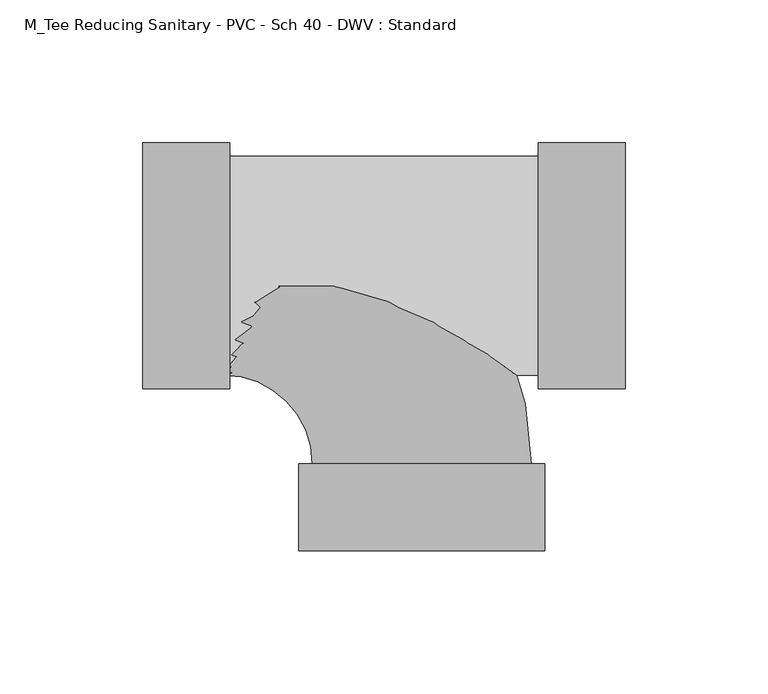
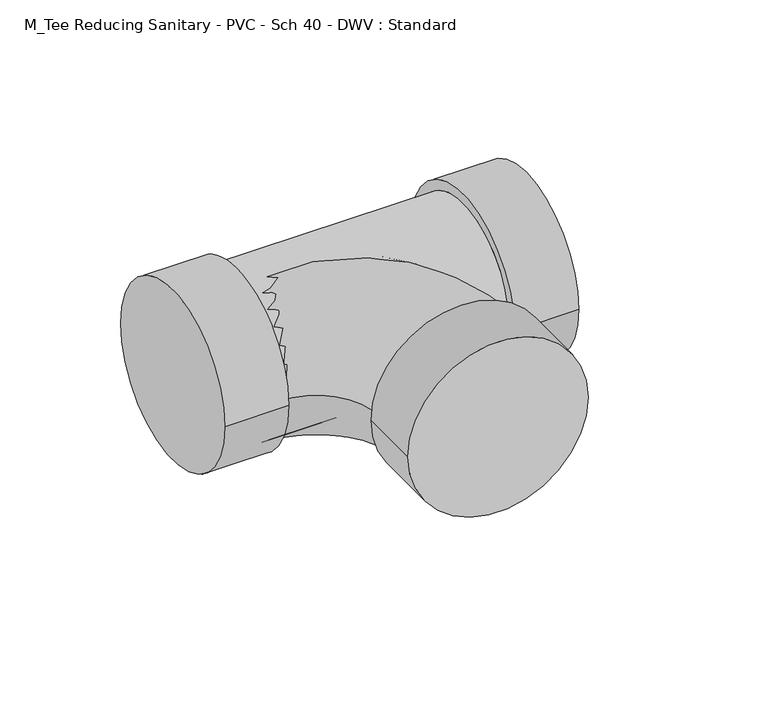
"""IFC4 building model written with IfcOpenShell, lengths in millimetres: pipe fitting geometry, M_Tee Reducing Sanitary - PVC - Sch 40 - DWV : Standard."""

from ifc_helpers import new_model, si_unit, point, frame, origin, place, context, project, spatial, circle_curve, ellipse_curve, trimmed, source, transform, mapped, element, save
from ifc_brep_helpers import plane_surface, cylinder_surface, revolved_surface, advanced_brep


def m_tee_reducing_sanitary_pvc_sch_40_dwv_standard_9cd1363b(model_context):
    return source(origin(), model_context, "Body", "AdvancedBrep", [
        advanced_brep(
        [(40.779225, -43.0871094, 0.0), (40.779225, 43.0871094, 0.0), (40.779225, -38.3640625, 0.0), (40.779225, 38.3640625, 0.0), (71.3495375, -43.0871094, 0.0), (71.3495375, 43.0871094, 0.0), (-67.2428062, 38.3640625, 0.0), (-67.2428062, -38.3640625, 0.0), (-97.8131188, -43.0871094, 0.0), (-97.8131187, 43.0871094, 0.0), (-67.2428063, -43.0871094, 0.0), (-67.2428062, 43.0871094, 0.0)],
        [
            (0, 1, circle_curve(frame((40.779225, 0.0, 0.0), z_axis=(-1.0, 0.0, 0.0), x_axis=(0.0, 1.0, 0.0)), 43.0871094)),
            (1, 0, circle_curve(frame((40.779225, 0.0, 0.0), z_axis=(-1.0, 0.0, 0.0), x_axis=(0.0, 1.0, 0.0)), 43.0871094)),
            (2, 3, circle_curve(frame((40.779225, 0.0, 0.0), z_axis=(1.0, 0.0, 0.0), x_axis=(0.0, 0.0, -1.0)), 38.3640625)),
            (3, 2, circle_curve(frame((40.779225, 0.0, 0.0), z_axis=(1.0, 0.0, 0.0), x_axis=(0.0, 0.0, 1.0)), 38.3640625)),
            (4, 5, circle_curve(frame((71.3495375, 0.0, 0.0), z_axis=(1.0, 0.0, 0.0), x_axis=(0.0, 1.0, 0.0)), 43.0871094)),
            (5, 4, circle_curve(frame((71.3495375, 0.0, 0.0), z_axis=(1.0, 0.0, 0.0), x_axis=(0.0, 1.0, 0.0)), 43.0871094)),
            (0, 4),
            (5, 1),
            (6, 3),
            (2, 7),
            (7, 6, circle_curve(frame((-67.2428063, 0.0, 0.0), z_axis=(1.0, 0.0, 0.0), x_axis=(0.0, 0.0, -1.0)), 38.3640625)),
            (6, 7, circle_curve(frame((-67.2428062, 0.0, 0.0), z_axis=(1.0, 0.0, 0.0), x_axis=(0.0, 0.0, 1.0)), 38.3640625)),
            (8, 9, circle_curve(frame((-97.8131187, 0.0, 0.0), z_axis=(-1.0, 0.0, 0.0), x_axis=(0.0, 1.0, 0.0)), 43.0871094)),
            (9, 8, circle_curve(frame((-97.8131187, 0.0, 0.0), z_axis=(-1.0, 0.0, 0.0), x_axis=(0.0, 1.0, 0.0)), 43.0871094)),
            (10, 11, circle_curve(frame((-67.2428062, 0.0, 0.0), z_axis=(1.0, 0.0, 0.0), x_axis=(0.0, 1.0, 0.0)), 43.0871094)),
            (11, 10, circle_curve(frame((-67.2428062, 0.0, 0.0), z_axis=(1.0, 0.0, 0.0), x_axis=(0.0, 1.0, 0.0)), 43.0871094)),
            (8, 10),
            (11, 9),
        ],
        [
            plane_surface(frame((40.779225, 0.0, 0.0), z_axis=(-1.0, 0.0, 0.0), x_axis=(0.0, 0.0, 1.0))),
            plane_surface(frame((71.3495375, 0.0, 0.0), z_axis=(1.0, 0.0, 0.0), x_axis=(0.0, 0.0, 1.0))),
            cylinder_surface(frame((40.779225, 0.0, 0.0), z_axis=(-1.0, 0.0, 0.0), x_axis=(0.0, 1.0, 0.0)), 43.0871094),
            cylinder_surface(frame((-67.2428062, 0.0, 0.0), z_axis=(1.0, 0.0, 0.0), x_axis=(0.0, 0.0, -1.0)), 38.3640625),
            cylinder_surface(frame((-67.2428062, 0.0, 0.0), z_axis=(1.0, 0.0, 0.0), x_axis=(0.0, 0.0, 1.0)), 38.3640625),
            plane_surface(frame((-97.8131187, 0.0, 0.0), z_axis=(-1.0, 0.0, 0.0), x_axis=(0.0, 0.0, 1.0))),
            plane_surface(frame((-67.2428062, 0.0, 0.0), z_axis=(1.0, 0.0, 0.0), x_axis=(0.0, 0.0, 1.0))),
            cylinder_surface(frame((-97.8131187, 0.0, 0.0), z_axis=(-1.0, 0.0, 0.0), x_axis=(0.0, 1.0, 0.0)), 43.0871094),
        ],
        [
            (0, [[1, 2], [3, 4]]),
            (1, [[5, 6]]),
            (2, [[-1, 7, -6, 8]]),
            (2, [[-2, -8, -5, -7]]),
            (3, [[9, -3, 10, 11]]),
            (4, [[-9, 12, -10, -4]]),
            (5, [[13, 14]]),
            (6, [[15, 16], [-11, -12]]),
            (7, [[-13, 17, -16, 18]]),
            (7, [[-14, -18, -15, -17]]),
        ],
    ),
        advanced_brep(
        [(-43.0871094, -69.3976563, 0.0), (43.0871094, -69.3976563, 0.0), (38.3640625, -69.3976563, 0.0), (-38.3640625, -69.3976563, 0.0), (-43.0871094, -99.9679688, 0.0), (43.0871094, -99.9679688, 0.0), (-69.3976562, -38.3640625, 0.0), (-69.3976562, 38.3640625, 0.0)],
        [
            (0, 1, circle_curve(frame((0.0, -69.3976563, 0.0), z_axis=(0.0, 1.0, 0.0), x_axis=(1.0, 0.0, 0.0)), 43.0871094)),
            (1, 0, circle_curve(frame((0.0, -69.3976563, 0.0), z_axis=(0.0, 1.0, 0.0), x_axis=(1.0, 0.0, 0.0)), 43.0871094)),
            (2, 3, circle_curve(frame((0.0, -69.3976563, 0.0), z_axis=(0.0, -1.0, 0.0), x_axis=(1.0, 0.0, 0.0)), 38.3640625)),
            (3, 2, circle_curve(frame((0.0, -69.3976563, 0.0), z_axis=(0.0, -1.0, 0.0), x_axis=(1.0, 0.0, 0.0)), 38.3640625)),
            (4, 5, circle_curve(frame((0.0, -99.9679688, 0.0), z_axis=(0.0, -1.0, 0.0), x_axis=(1.0, 0.0, 0.0)), 43.0871094)),
            (5, 4, circle_curve(frame((0.0, -99.9679688, 0.0), z_axis=(0.0, -1.0, 0.0), x_axis=(1.0, 0.0, 0.0)), 43.0871094)),
            (0, 4),
            (5, 1),
            (6, 7, circle_curve(frame((-69.3976562, 0.0, 0.0), z_axis=(-1.0, 0.0, 0.0), x_axis=(0.0, 1.0, 0.0)), 38.3640625)),
            (7, 6, circle_curve(frame((-69.3976562, 0.0, 0.0), z_axis=(-1.0, 0.0, 0.0), x_axis=(0.0, 1.0, 0.0)), 38.3640625)),
            (6, 3, circle_curve(frame((-69.3976562, -69.3976563, 0.0), z_axis=(0.0, 0.0, -1.0), x_axis=(0.0, 1.0, 0.0)), 31.0335938)),
            (2, 7, circle_curve(frame((-69.3976562, -69.3976563, 0.0), z_axis=(0.0, 0.0, 1.0), x_axis=(0.0, 1.0, 0.0)), 107.7617188)),
        ],
        [
            plane_surface(frame((0.0, -69.3976563, 0.0), z_axis=(0.0, 1.0, 0.0), x_axis=(0.0, 0.0, 1.0))),
            plane_surface(frame((0.0, -99.9679688, 0.0), z_axis=(0.0, -1.0, 0.0), x_axis=(0.0, 0.0, 1.0))),
            cylinder_surface(frame((0.0, -69.3976563, 0.0), z_axis=(0.0, 1.0, 0.0), x_axis=(1.0, 0.0, 0.0)), 43.0871094),
            plane_surface(frame((-69.3976562, 0.0, 0.0), z_axis=(-1.0, 0.0, 0.0), x_axis=(0.0, 0.0, 1.0))),
            revolved_surface(trimmed(ellipse_curve(frame((-69.3976562, 0.0, 0.0), z_axis=(-1.0, 0.0, 0.0), x_axis=(0.0, 1.0, 0.0)), 38.3640625, 38.3640625), [point((-69.3976562, -38.3640625, 0.0))], [point((-69.3976562, 38.3640625, 0.0))], True, "CARTESIAN"), (-69.3976562, -69.3976563, 0.0), (0.0, 0.0, -1.0)),
            revolved_surface(trimmed(ellipse_curve(frame((-69.3976562, 0.0, 0.0), z_axis=(-1.0, 0.0, 0.0), x_axis=(0.0, 1.0, 0.0)), 38.3640625, 38.3640625), [point((-69.3976562, 38.3640625, 0.0))], [point((-69.3976562, -38.3640625, 0.0))], True, "CARTESIAN"), (-69.3976562, -69.3976563, 0.0), (0.0, 0.0, -1.0)),
        ],
        [
            (0, [[1, 2], [3, 4]]),
            (1, [[5, 6]]),
            (2, [[-1, 7, -6, 8]]),
            (2, [[-2, -8, -5, -7]]),
            (3, [[9, 10]]),
            (4, [[-9, 11, -3, 12]]),
            (5, [[-10, -12, -4, -11]]),
        ],
    ),
    ])


if __name__ == "__main__":
    model = new_model("IFC4")
    model_context = context("Model", 3, world=origin())
    ifc_project = project(units=[si_unit("LENGTHUNIT", "METRE", prefix="MILLI")], contexts=[model_context])
    site = spatial("IfcSite", under=ifc_project)
    building = spatial("IfcBuilding", under=site)
    placement = place(None, origin())
    m_tee_reducing_sanitary_pvc_sch_40_dwv_standard_shape = m_tee_reducing_sanitary_pvc_sch_40_dwv_standard_9cd1363b(model_context)
    element("IfcPipeFitting", 1, ObjectType="M_Tee Reducing Sanitary - PVC - Sch 40 - DWV : Standard", at=placement, inside=building, context=model_context, shape_type="MappedRepresentation", body=[
        mapped(m_tee_reducing_sanitary_pvc_sch_40_dwv_standard_shape, transform((0.0, 0.0, 0.0), x_axis=(1.0, 0.0, 0.0), y_axis=(0.0, 1.0, 0.0), z_axis=(0.0, 0.0, 1.0))),
    ])
    save(model, "model.ifc")
